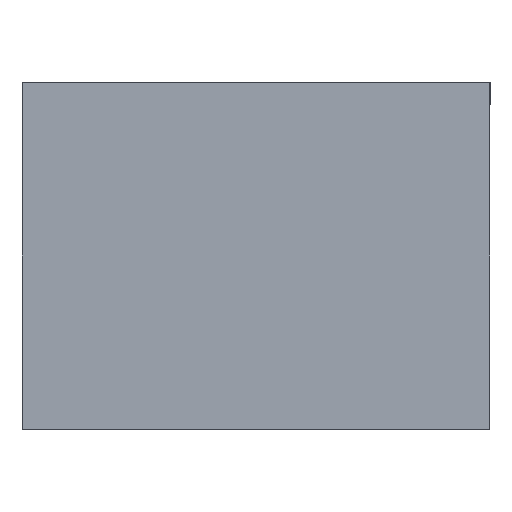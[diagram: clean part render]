
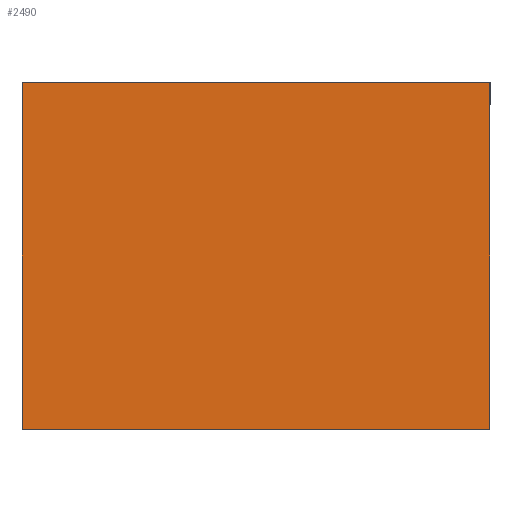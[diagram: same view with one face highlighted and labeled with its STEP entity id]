
A CAD part, front view. The second image highlights one B-rep face of the part: STEP entity #2490.
In plain terms, the highlighted planar face has unit normal (0, -1, 0).
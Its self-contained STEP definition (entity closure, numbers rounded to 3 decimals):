
#40 = DIRECTION ( 'NONE',  ( 0., 0., -1. ) ) ;
#104 = EDGE_LOOP ( 'NONE', ( #331, #806, #2493, #1911 ) ) ;
#248 = VECTOR ( 'NONE', #40, 1000. ) ;
#308 = PLANE ( 'NONE',  #1527 ) ;
#331 = ORIENTED_EDGE ( 'NONE', *, *, #2500, .F. ) ;
#420 = CARTESIAN_POINT ( 'NONE',  ( -42.5, 0., -31.5 ) ) ;
#433 = LINE ( 'NONE', #533, #2035 ) ;
#533 = CARTESIAN_POINT ( 'NONE',  ( -42.5, 0., -31.5 ) ) ;
#538 = CARTESIAN_POINT ( 'NONE',  ( -42.5, 0., -31.5 ) ) ;
#630 = CARTESIAN_POINT ( 'NONE',  ( 0., 0., 0. ) ) ;
#706 = DIRECTION ( 'NONE',  ( 0., 0., 1. ) ) ;
#787 = CARTESIAN_POINT ( 'NONE',  ( -42.5, 0., 31.5 ) ) ;
#793 = DIRECTION ( 'NONE',  ( 0., 0., 1. ) ) ;
#806 = ORIENTED_EDGE ( 'NONE', *, *, #1359, .F. ) ;
#897 = LINE ( 'NONE', #1210, #248 ) ;
#904 = VECTOR ( 'NONE', #706, 1000. ) ;
#943 = VECTOR ( 'NONE', #1817, 1000. ) ;
#960 = DIRECTION ( 'NONE',  ( -1., 0., 0. ) ) ;
#980 = CARTESIAN_POINT ( 'NONE',  ( 42.5, 0., 31.5 ) ) ;
#1015 = VERTEX_POINT ( 'NONE', #420 ) ;
#1181 = CARTESIAN_POINT ( 'NONE',  ( 42.5, 0., -31.5 ) ) ;
#1210 = CARTESIAN_POINT ( 'NONE',  ( 42.5, 0., -31.5 ) ) ;
#1359 = EDGE_CURVE ( 'NONE', #2422, #1418, #2063, .T. ) ;
#1418 = VERTEX_POINT ( 'NONE', #980 ) ;
#1527 = AXIS2_PLACEMENT_3D ( 'NONE', #630, #1869, #793 ) ;
#1635 = CARTESIAN_POINT ( 'NONE',  ( -42.5, 0., 31.5 ) ) ;
#1817 = DIRECTION ( 'NONE',  ( 1., 0., 0. ) ) ;
#1869 = DIRECTION ( 'NONE',  ( 0., 1., 0. ) ) ;
#1911 = ORIENTED_EDGE ( 'NONE', *, *, #2366, .F. ) ;
#1940 = VERTEX_POINT ( 'NONE', #1181 ) ;
#2035 = VECTOR ( 'NONE', #960, 1000. ) ;
#2063 = LINE ( 'NONE', #1635, #943 ) ;
#2098 = EDGE_CURVE ( 'NONE', #1015, #2422, #2412, .T. ) ;
#2301 = FACE_OUTER_BOUND ( 'NONE', #104, .T. ) ;
#2366 = EDGE_CURVE ( 'NONE', #1940, #1015, #433, .T. ) ;
#2412 = LINE ( 'NONE', #538, #904 ) ;
#2422 = VERTEX_POINT ( 'NONE', #787 ) ;
#2490 = ADVANCED_FACE ( 'NONE', ( #2301 ), #308, .F. ) ;
#2493 = ORIENTED_EDGE ( 'NONE', *, *, #2098, .F. ) ;
#2500 = EDGE_CURVE ( 'NONE', #1418, #1940, #897, .T. ) ;
